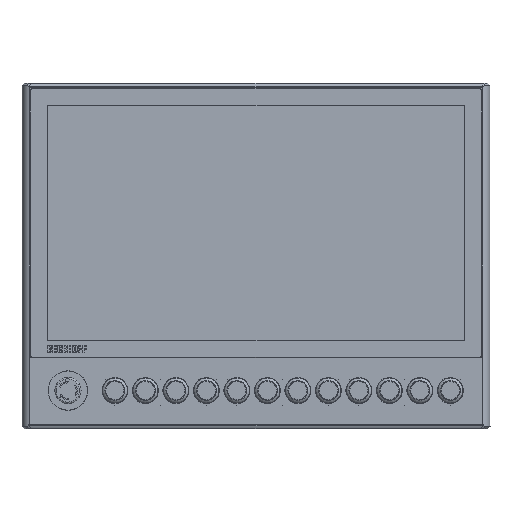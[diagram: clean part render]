
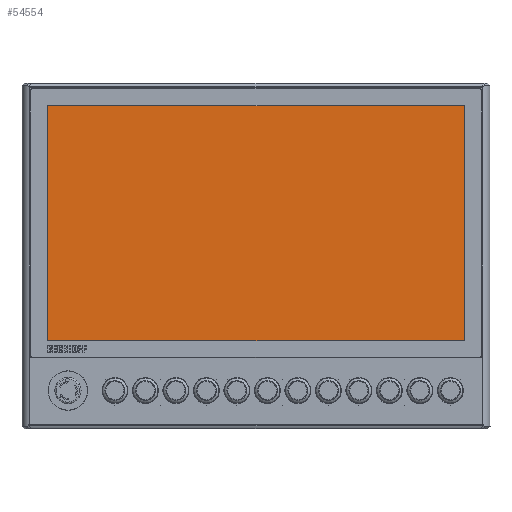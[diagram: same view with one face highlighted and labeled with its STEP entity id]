
A CAD part, top view. The second image highlights one B-rep face of the part: STEP entity #54554.
In plain terms, the highlighted planar face has unit normal (0, 0, 1).
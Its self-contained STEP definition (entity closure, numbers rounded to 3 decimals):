
#4763=LINE('',#89538,#8278);
#4764=LINE('',#89540,#8279);
#4765=LINE('',#89542,#8280);
#4766=LINE('',#89543,#8281);
#8278=VECTOR('',#70200,10.);
#8279=VECTOR('',#70201,10.);
#8280=VECTOR('',#70202,10.);
#8281=VECTOR('',#70203,10.);
#12867=FACE_OUTER_BOUND('',#16270,.T.);
#16270=EDGE_LOOP('',(#41572,#41573,#41574,#41575));
#23020=VERTEX_POINT('',#89536);
#23021=VERTEX_POINT('',#89537);
#23022=VERTEX_POINT('',#89539);
#23023=VERTEX_POINT('',#89541);
#29582=EDGE_CURVE('',#23020,#23021,#4763,.T.);
#29583=EDGE_CURVE('',#23022,#23020,#4764,.T.);
#29584=EDGE_CURVE('',#23023,#23022,#4765,.T.);
#29585=EDGE_CURVE('',#23021,#23023,#4766,.T.);
#41572=ORIENTED_EDGE('',*,*,#29582,.F.);
#41573=ORIENTED_EDGE('',*,*,#29583,.F.);
#41574=ORIENTED_EDGE('',*,*,#29584,.F.);
#41575=ORIENTED_EDGE('',*,*,#29585,.F.);
#49165=PLANE('',#59272);
#54554=ADVANCED_FACE('',(#12867),#49165,.T.);
#59272=AXIS2_PLACEMENT_3D('',#89535,#70198,#70199);
#70198=DIRECTION('center_axis',(0.,0.,
1.));
#70199=DIRECTION('ref_axis',(1.,0.,0.));
#70200=DIRECTION('',(1.,0.,0.));
#70201=DIRECTION('',(0.,1.,0.));
#70202=DIRECTION('',(-1.,0.,0.));
#70203=DIRECTION('',(0.,-1.,0.));
#89535=CARTESIAN_POINT('Origin',(113.875,-7.875,14.3));
#89536=CARTESIAN_POINT('',(-125.275,127.125,14.3));
#89537=CARTESIAN_POINT('',(353.025,127.125,14.3));
#89538=CARTESIAN_POINT('',(233.45,127.125,14.3));
#89539=CARTESIAN_POINT('',(-125.275,-142.875,14.3));
#89540=CARTESIAN_POINT('',(-125.275,59.625,14.3));
#89541=CARTESIAN_POINT('',(353.025,-142.875,14.3));
#89542=CARTESIAN_POINT('',(-5.7,-142.875,14.3));
#89543=CARTESIAN_POINT('',(353.025,-75.375,14.3));
